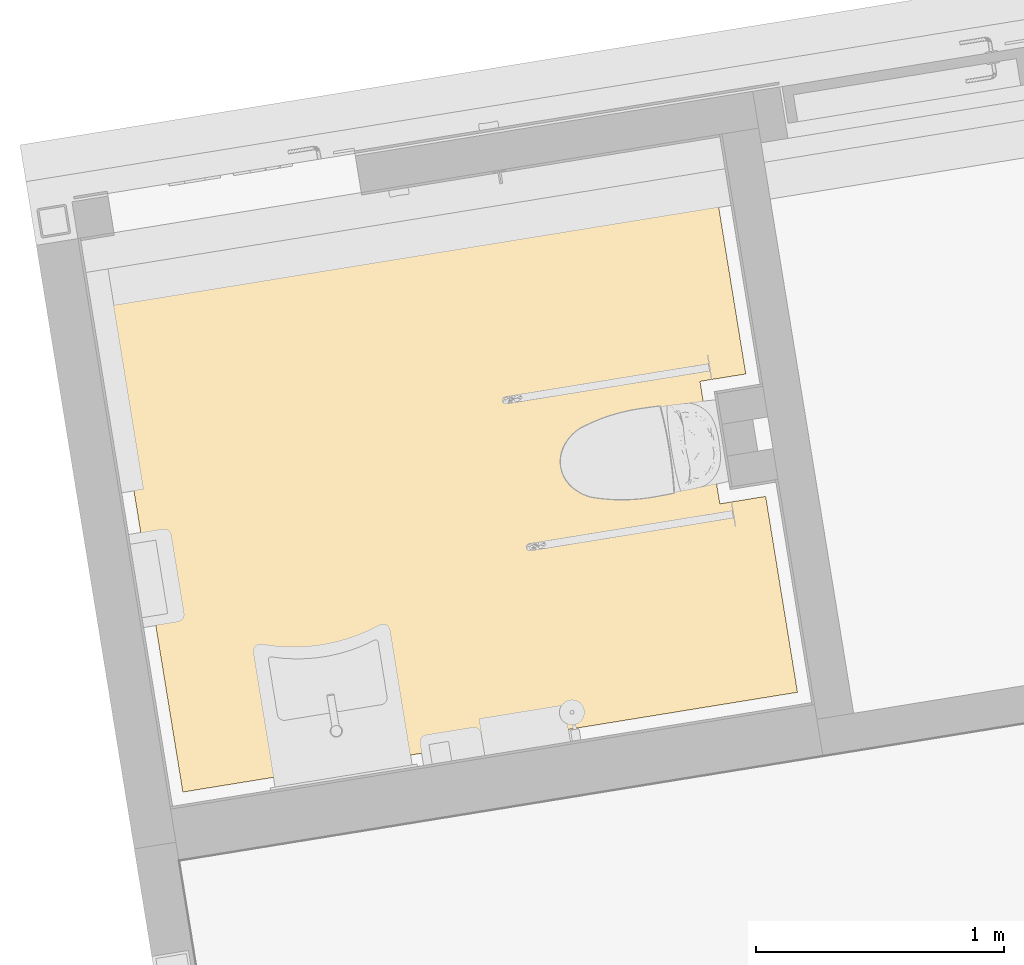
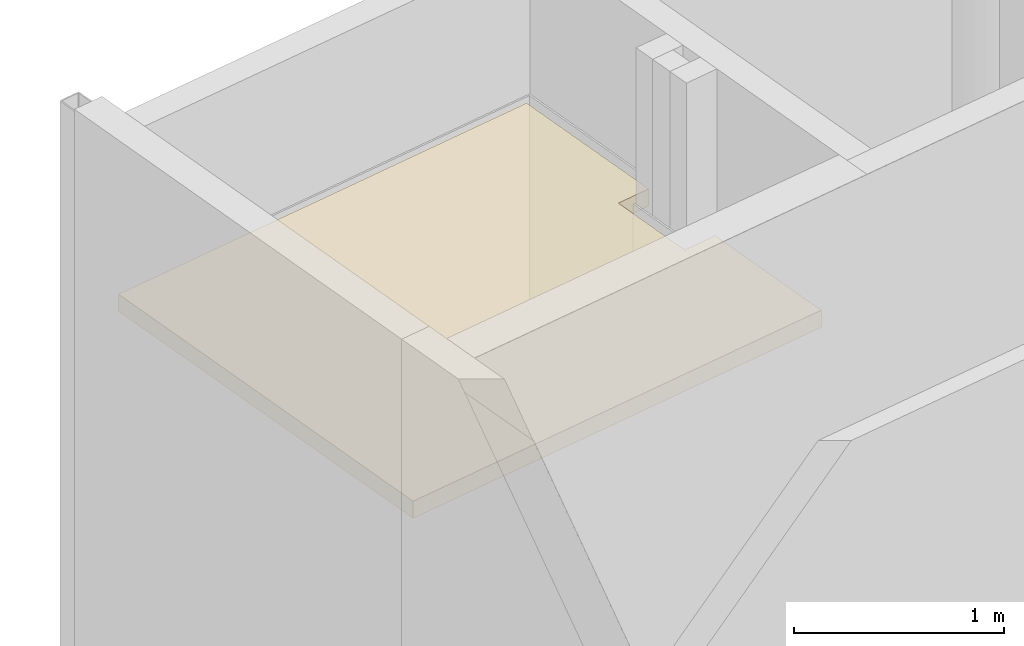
# One storey, part 28 of 38: 1 covering.
"""IFC2X3 building model written with IfcOpenShell, lengths in millimetres."""

from ifc_helpers import new_model, entity, si_unit, converted_unit, derived_unit, direction, frame, origin, origin_with_axes, place, context, subcontext, project, spatial, polyline, outline, extrude, material, layer, layer_set, layer_usage, type_object, element, save


model = new_model("IFC2X3")

# Units and contexts
model_context = context("Model", 3, precision=0.01, world=origin(), true_north=direction((6.12323399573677e-17, 1.0)))
plan_context = context("Plan", 3, precision=1e-05, world=origin_with_axes())
body_context = subcontext(model_context, "Body", "Model", "MODEL_VIEW")
ifc_project = project(units=[converted_unit("PLANEANGLEUNIT", "DEGREE", entity("IfcPositiveLengthMeasure", 0.0174532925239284), si_unit("PLANEANGLEUNIT", "RADIAN"), dimensions=[0, 0, 0, 0, 0, 0, 0]), si_unit("AREAUNIT", "SQUARE_METRE"), si_unit("LENGTHUNIT", "METRE", prefix="MILLI"), si_unit("MASSUNIT", "GRAM", prefix="KILO"), si_unit("POWERUNIT", "WATT"), si_unit("PRESSUREUNIT", "PASCAL", prefix="KILO"), si_unit("FORCEUNIT", "NEWTON", prefix="KILO"), si_unit("ELECTRICVOLTAGEUNIT", "VOLT"), si_unit("ELECTRICCURRENTUNIT", "AMPERE"), si_unit("THERMODYNAMICTEMPERATUREUNIT", "DEGREE_CELSIUS"), si_unit("TIMEUNIT", "SECOND"), si_unit("VOLUMEUNIT", "CUBIC_METRE"), derived_unit("LINEARVELOCITYUNIT", [(si_unit("LENGTHUNIT", "METRE"), 1), (si_unit("TIMEUNIT", "SECOND"), -1)]), derived_unit("VOLUMETRICFLOWRATEUNIT", [(si_unit("VOLUMEUNIT", "CUBIC_METRE"), 1), (si_unit("TIMEUNIT", "SECOND"), -1)]), derived_unit("THERMALTRANSMITTANCEUNIT", [(si_unit("POWERUNIT", "WATT"), 1), (si_unit("THERMODYNAMICTEMPERATUREUNIT", "KELVIN"), -1), (si_unit("AREAUNIT", "SQUARE_METRE"), -1)]), derived_unit("SOUNDPRESSUREUNIT", [(si_unit("PRESSUREUNIT", "PASCAL"), 1)])], contexts=[model_context, plan_context])

# Site, building, storey
site_placement = place(None, frame((-0.00071070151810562, 0.00438415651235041, 0.0), z_axis=(0.0, 0.0, 1.0), x_axis=(-0.160236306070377, 0.987078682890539, 0.0)))
site = spatial("IfcSite", under=ifc_project, at=site_placement, Name="Default", CompositionType="ELEMENT")
building_placement = place(site_placement, origin_with_axes())
building = spatial("IfcBuilding", under=site, at=building_placement, Name="TOO", CompositionType="ELEMENT")
storey_placement = place(building_placement, frame((0.0, 0.0, 50999.9999999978), z_axis=(0.0, 0.0, 1.0), x_axis=(1.0, 0.0, 0.0)))
storey = spatial("IfcBuildingStorey", under=building, at=storey_placement, Name="Nivå D-H01", CompositionType="ELEMENT", Elevation=50999.9999999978)

# Covering
ifc_material_1 = material(Name="_NSW Standard")
ifc_layer_1 = layer(ifc_material_1, 95.0)
ifc_material_2 = material(Name="A257 - Metall - Aluminum - 600 x 600mm")
ifc_layer_2 = layer(ifc_material_2, 5.0)
ifc_layer_set = layer_set([ifc_layer_1, ifc_layer_2], Name="Compound Ceiling:A257 MF04 Publikum Systemhimling 600x600 mm")
ifc_layer_usage = layer_usage(ifc_layer_set, "AXIS3", "NEGATIVE", 100.0)
covering_type = type_object("IfcCoveringType", Name="Compound Ceiling:A257 MF04 Publikum Systemhimling 600x600 mm", PredefinedType="CEILING")
covering_placement = place(storey_placement, origin_with_axes())
element("IfcCovering", 1, at=covering_placement, inside=storey, type_object=covering_type, material=ifc_layer_usage, Name="Compound Ceiling:A257 MF04 Publikum Systemhimling 600x600 mm", ObjectType="Compound Ceiling:A257 MF04 Publikum Systemhimling 600x600 mm", PredefinedType="CEILING", context=body_context, shape_type="SweptSolid", body=[
    extrude(outline(polyline([(-1140.0, -1835.73674624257), (1080.0, -1835.73674624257), (1080.0, 674.263253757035), (280.0, 674.263253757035), (280.0, 487.210238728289), (-220.0, 487.210238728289), (-220.0, 674.263253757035), (-1140.0, 674.263253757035), (-1140.0, -1835.73674624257)])), frame((778602.619644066, -590958.218485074, 2600.0), z_axis=(0.0, 0.0, 1.0), x_axis=(-1.0, 0.0, 0.0)), (0.0, 0.0, 1.0), 100.000000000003),
])

save(model, "model.ifc")
